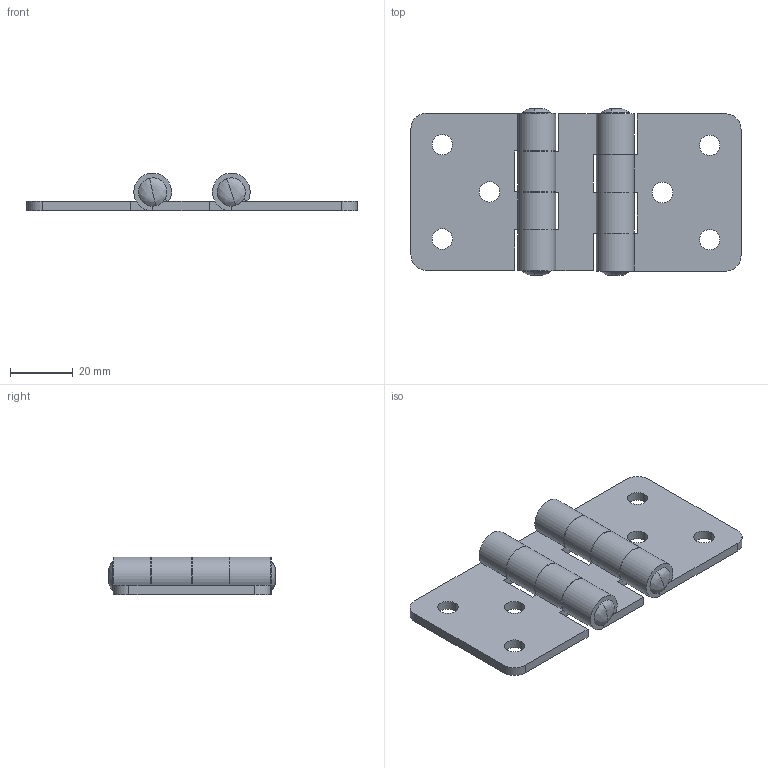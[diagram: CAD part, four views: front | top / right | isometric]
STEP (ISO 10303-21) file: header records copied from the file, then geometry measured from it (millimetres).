
FILE_DESCRIPTION (( 'STEP AP214' ), '1' );
FILE_NAME ('3.ST 55.001.STEP', '2010-02-18T17:02:48', ( 'Rak' ), ( 'ROZTOCZE' ), 'SwSTEP 2.0', 'SolidWorks 2004231', '' );
FILE_SCHEMA (( 'AUTOMOTIVE_DESIGN' ));
Length unit declared in the file: millimetre
Products named in the file (4): 3.ST 55.02.01_Domyœlna; 3.ST 55.03.01 do z³o¿enia_Domyœlna; 3.ST 55.01.01_Domyœlna; 3.ST 55.001
Assembly tree (5 placements, depth 2):
  3.ST 55.001
    3.ST 55.03.01 do z³o¿enia_Domyœlna  x2
    3.ST 55.01.01_Domyœlna  x2
    3.ST 55.02.01_Domyœlna
Bounding box: 105 x 53.1 x 12 mm (x, y, z)
Volume: 23129.6 mm3; surface area: 18877.8 mm2
Topology: 5 solids, 5 shells, 106 faces, 256 edges, 156 vertices
Faces by surface type: plane 62, cylinder 36, bspline 8
Entity records: 2197 total; most frequent: CARTESIAN_POINT 436, DIRECTION 356, ORIENTED_EDGE 328, EDGE_CURVE 164, AXIS2_PLACEMENT_3D 122, VECTOR 112, LINE 112, VERTEX_POINT 102
